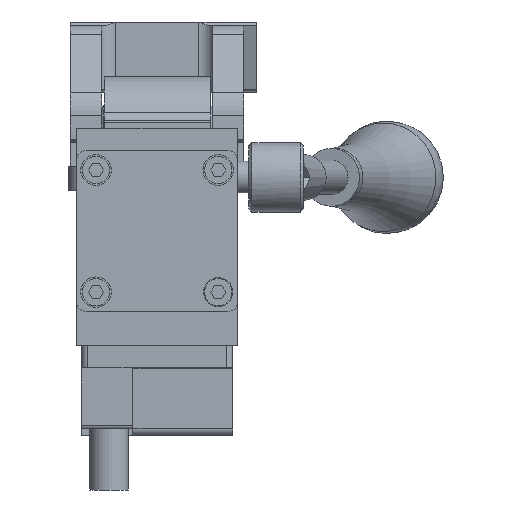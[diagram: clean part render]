
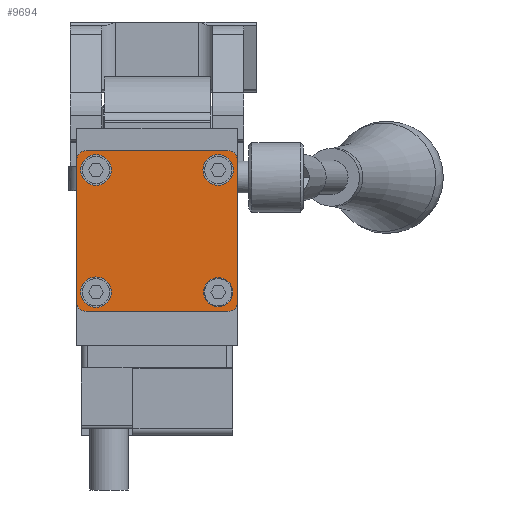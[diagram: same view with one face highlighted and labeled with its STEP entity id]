
A CAD part, front view. The second image highlights one B-rep face of the part: STEP entity #9694.
In plain terms, the highlighted planar face has unit normal (0, -1, 0).
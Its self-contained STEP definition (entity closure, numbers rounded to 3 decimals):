
#393=LINE('',#13765,#1075);
#397=LINE('',#13777,#1079);
#401=LINE('',#13789,#1083);
#405=LINE('',#13801,#1087);
#1075=VECTOR('',#11361,1000.);
#1079=VECTOR('',#11373,1000.);
#1083=VECTOR('',#11385,1000.);
#1087=VECTOR('',#11397,1000.);
#1898=ORIENTED_EDGE('',*,*,#3865,.T.);
#1899=ORIENTED_EDGE('',*,*,#3866,.T.);
#1900=ORIENTED_EDGE('',*,*,#3867,.T.);
#1901=ORIENTED_EDGE('',*,*,#3868,.T.);
#1902=ORIENTED_EDGE('',*,*,#3835,.F.);
#1903=ORIENTED_EDGE('',*,*,#3858,.F.);
#1904=ORIENTED_EDGE('',*,*,#3855,.F.);
#1905=ORIENTED_EDGE('',*,*,#3852,.F.);
#1906=ORIENTED_EDGE('',*,*,#3849,.F.);
#1907=ORIENTED_EDGE('',*,*,#3846,.F.);
#1908=ORIENTED_EDGE('',*,*,#3843,.F.);
#1909=ORIENTED_EDGE('',*,*,#3840,.F.);
#3835=EDGE_CURVE('',#4812,#4813,#5386,.T.);
#3840=EDGE_CURVE('',#4813,#4817,#393,.T.);
#3843=EDGE_CURVE('',#4817,#4819,#5389,.T.);
#3846=EDGE_CURVE('',#4819,#4821,#397,.T.);
#3849=EDGE_CURVE('',#4821,#4823,#5391,.T.);
#3852=EDGE_CURVE('',#4823,#4825,#401,.T.);
#3855=EDGE_CURVE('',#4825,#4827,#5393,.T.);
#3858=EDGE_CURVE('',#4827,#4812,#405,.T.);
#3865=EDGE_CURVE('',#4834,#4834,#5400,.T.);
#3866=EDGE_CURVE('',#4835,#4835,#5401,.T.);
#3867=EDGE_CURVE('',#4836,#4836,#5402,.T.);
#3868=EDGE_CURVE('',#4837,#4837,#5403,.T.);
#4812=VERTEX_POINT('',#13755);
#4813=VERTEX_POINT('',#13756);
#4817=VERTEX_POINT('',#13766);
#4819=VERTEX_POINT('',#13772);
#4821=VERTEX_POINT('',#13778);
#4823=VERTEX_POINT('',#13784);
#4825=VERTEX_POINT('',#13790);
#4827=VERTEX_POINT('',#13796);
#4834=VERTEX_POINT('',#13816);
#4835=VERTEX_POINT('',#13818);
#4836=VERTEX_POINT('',#13820);
#4837=VERTEX_POINT('',#13822);
#5386=CIRCLE('',#10271,3.);
#5389=CIRCLE('',#10276,3.);
#5391=CIRCLE('',#10280,3.);
#5393=CIRCLE('',#10284,3.);
#5400=CIRCLE('',#10294,4.75);
#5401=CIRCLE('',#10295,4.75);
#5402=CIRCLE('',#10296,4.75);
#5403=CIRCLE('',#10297,4.5);
#5731=EDGE_LOOP('',(#1898));
#5732=EDGE_LOOP('',(#1899));
#5733=EDGE_LOOP('',(#1900));
#5734=EDGE_LOOP('',(#1901));
#5735=EDGE_LOOP('',(#1902,#1903,#1904,#1905,#1906,#1907,#1908,#1909));
#6396=FACE_BOUND('',#5731,.T.);
#6397=FACE_BOUND('',#5732,.T.);
#6398=FACE_BOUND('',#5733,.T.);
#6399=FACE_BOUND('',#5734,.T.);
#6400=FACE_BOUND('',#5735,.T.);
#7008=PLANE('',#10293);
#9694=ADVANCED_FACE('',(#6396,#6397,#6398,#6399,#6400),#7008,.F.);
#10271=AXIS2_PLACEMENT_3D('',#13754,#11351,#11352);
#10276=AXIS2_PLACEMENT_3D('',#13771,#11366,#11367);
#10280=AXIS2_PLACEMENT_3D('',#13783,#11378,#11379);
#10284=AXIS2_PLACEMENT_3D('',#13795,#11390,#11391);
#10293=AXIS2_PLACEMENT_3D('',#13814,#11411,#11412);
#10294=AXIS2_PLACEMENT_3D('',#13815,#11413,#11414);
#10295=AXIS2_PLACEMENT_3D('',#13817,#11415,#11416);
#10296=AXIS2_PLACEMENT_3D('',#13819,#11417,#11418);
#10297=AXIS2_PLACEMENT_3D('',#13821,#11419,#11420);
#11351=DIRECTION('',(0.,1.,0.));
#11352=DIRECTION('',(1.,0.,0.));
#11361=DIRECTION('',(0.,0.,1.));
#11366=DIRECTION('',(0.,1.,0.));
#11367=DIRECTION('',(1.,0.,0.));
#11373=DIRECTION('',(1.,0.,0.));
#11378=DIRECTION('',(0.,1.,0.));
#11379=DIRECTION('',(1.,0.,0.));
#11385=DIRECTION('',(0.,0.,-1.));
#11390=DIRECTION('',(0.,1.,0.));
#11391=DIRECTION('',(1.,0.,0.));
#11397=DIRECTION('',(-1.,0.,0.));
#11411=DIRECTION('',(0.,1.,0.));
#11412=DIRECTION('',(0.,0.,1.));
#11413=DIRECTION('',(0.,1.,0.));
#11414=DIRECTION('',(1.,0.,0.));
#11415=DIRECTION('',(0.,1.,0.));
#11416=DIRECTION('',(1.,0.,0.));
#11417=DIRECTION('',(0.,1.,0.));
#11418=DIRECTION('',(1.,0.,0.));
#11419=DIRECTION('',(0.,1.,0.));
#11420=DIRECTION('',(1.,0.,0.));
#13754=CARTESIAN_POINT('',(-22.,0.,-22.));
#13755=CARTESIAN_POINT('',(-22.,0.,-25.));
#13756=CARTESIAN_POINT('',(-25.,0.,-22.));
#13765=CARTESIAN_POINT('',(-25.,0.,-22.));
#13766=CARTESIAN_POINT('',(-25.,0.,22.));
#13771=CARTESIAN_POINT('',(-22.,0.,22.));
#13772=CARTESIAN_POINT('',(-22.,0.,25.));
#13777=CARTESIAN_POINT('',(-22.,0.,25.));
#13778=CARTESIAN_POINT('',(22.,0.,25.));
#13783=CARTESIAN_POINT('',(22.,0.,22.));
#13784=CARTESIAN_POINT('',(25.,0.,22.));
#13789=CARTESIAN_POINT('',(25.,0.,22.));
#13790=CARTESIAN_POINT('',(25.,0.,-22.));
#13795=CARTESIAN_POINT('',(22.,0.,-22.));
#13796=CARTESIAN_POINT('',(22.,0.,-25.));
#13801=CARTESIAN_POINT('',(22.,0.,-25.));
#13814=CARTESIAN_POINT('',(-22.,0.,-22.));
#13815=CARTESIAN_POINT('',(19.,0.,-19.));
#13816=CARTESIAN_POINT('',(23.75,0.,-19.));
#13817=CARTESIAN_POINT('',(19.,0.,19.));
#13818=CARTESIAN_POINT('',(23.75,0.,19.));
#13819=CARTESIAN_POINT('',(-19.,0.,19.));
#13820=CARTESIAN_POINT('',(-14.25,0.,19.));
#13821=CARTESIAN_POINT('',(-19.,0.,-19.));
#13822=CARTESIAN_POINT('',(-14.5,0.,-19.));
